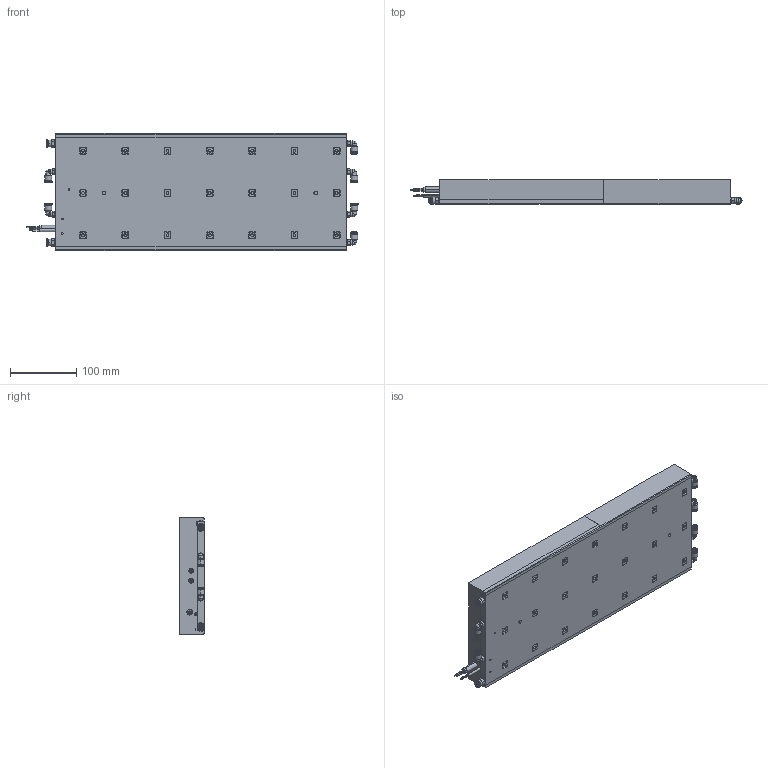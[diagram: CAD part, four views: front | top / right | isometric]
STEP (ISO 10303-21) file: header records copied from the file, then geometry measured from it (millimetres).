
FILE_DESCRIPTION (( 'STEP AP203' ), '1' );
FILE_NAME ('IC177WC-24 3D.STEP', '2021-12-13T02:09:36', ( '' ), ( '' ), 'SwSTEP 2.0', 'SolidWorks 2021', '' );
FILE_SCHEMA (( 'CONFIG_CONTROL_DESIGN' ));
Products named in the file (1): IC177WC-24 3D
Bounding box: 502.4 x 37 x 177.15 mm (x, y, z)
Volume: 2862989.1 mm3; surface area: 452772.3 mm2
Topology: 22 solids, 22 shells, 1377 faces, 3469 edges, 2150 vertices
Faces by surface type: plane 569, cylinder 486, cone 234, torus 58, sphere 30
Entity records: 42190 total; most frequent: CARTESIAN_POINT 8685, DIRECTION 7133, ORIENTED_EDGE 6878, EDGE_CURVE 3439, AXIS2_PLACEMENT_3D 2618, VERTEX_POINT 2150, VECTOR 1897, LINE 1897
